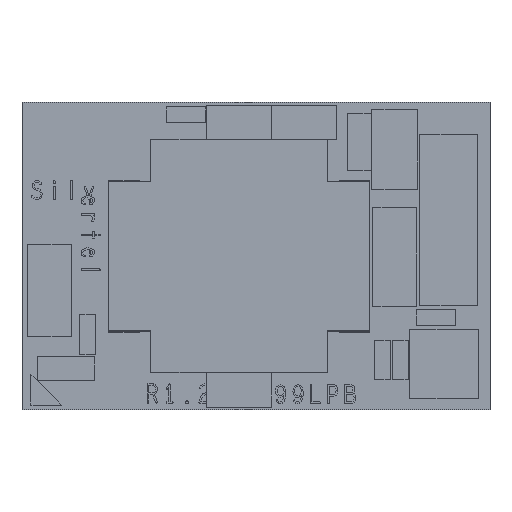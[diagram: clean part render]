
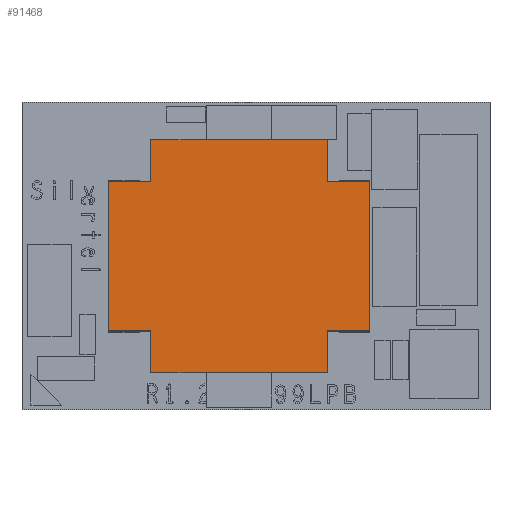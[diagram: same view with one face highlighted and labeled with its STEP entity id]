
A CAD part, top view. The second image highlights one B-rep face of the part: STEP entity #91468.
In plain terms, the highlighted face is a extrusion surface.
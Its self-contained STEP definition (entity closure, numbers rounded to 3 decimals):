
#91468 = ADVANCED_FACE('',(#91469),#91567,.T.);
#91469 = FACE_BOUND('',#91470,.T.);
#91470 = EDGE_LOOP('',(#91471,#91481,#91489,#91497,#91505,#91513,#91521,
    #91529,#91537,#91545,#91553,#91561));
#91471 = ORIENTED_EDGE('',*,*,#91472,.T.);
#91472 = EDGE_CURVE('',#91473,#91475,#91477,.T.);
#91473 = VERTEX_POINT('',#91474);
#91474 = CARTESIAN_POINT('',(3.531,2.388,5.588));
#91475 = VERTEX_POINT('',#91476);
#91476 = CARTESIAN_POINT('',(3.531,0.508,5.588));
#91477 = LINE('',#91478,#91479);
#91478 = CARTESIAN_POINT('',(3.531,2.388,5.588));
#91479 = VECTOR('',#91480,1.);
#91480 = DIRECTION('',(0.,-1.,0.));
#91481 = ORIENTED_EDGE('',*,*,#91482,.T.);
#91482 = EDGE_CURVE('',#91475,#91483,#91485,.T.);
#91483 = VERTEX_POINT('',#91484);
#91484 = CARTESIAN_POINT('',(11.532,0.508,5.588));
#91485 = LINE('',#91486,#91487);
#91486 = CARTESIAN_POINT('',(3.531,0.508,5.588));
#91487 = VECTOR('',#91488,1.);
#91488 = DIRECTION('',(1.,0.,0.));
#91489 = ORIENTED_EDGE('',*,*,#91490,.T.);
#91490 = EDGE_CURVE('',#91483,#91491,#91493,.T.);
#91491 = VERTEX_POINT('',#91492);
#91492 = CARTESIAN_POINT('',(11.532,2.388,5.588));
#91493 = LINE('',#91494,#91495);
#91494 = CARTESIAN_POINT('',(11.532,0.508,5.588));
#91495 = VECTOR('',#91496,1.);
#91496 = DIRECTION('',(0.,1.,0.));
#91497 = ORIENTED_EDGE('',*,*,#91498,.T.);
#91498 = EDGE_CURVE('',#91491,#91499,#91501,.T.);
#91499 = VERTEX_POINT('',#91500);
#91500 = CARTESIAN_POINT('',(13.437,2.388,5.588));
#91501 = LINE('',#91502,#91503);
#91502 = CARTESIAN_POINT('',(11.532,2.388,5.588));
#91503 = VECTOR('',#91504,1.);
#91504 = DIRECTION('',(1.,0.,0.));
#91505 = ORIENTED_EDGE('',*,*,#91506,.T.);
#91506 = EDGE_CURVE('',#91499,#91507,#91509,.T.);
#91507 = VERTEX_POINT('',#91508);
#91508 = CARTESIAN_POINT('',(13.437,9.169,5.588));
#91509 = LINE('',#91510,#91511);
#91510 = CARTESIAN_POINT('',(13.437,2.388,5.588));
#91511 = VECTOR('',#91512,1.);
#91512 = DIRECTION('',(0.,1.,0.));
#91513 = ORIENTED_EDGE('',*,*,#91514,.T.);
#91514 = EDGE_CURVE('',#91507,#91515,#91517,.T.);
#91515 = VERTEX_POINT('',#91516);
#91516 = CARTESIAN_POINT('',(11.532,9.169,5.588));
#91517 = LINE('',#91518,#91519);
#91518 = CARTESIAN_POINT('',(13.437,9.169,5.588));
#91519 = VECTOR('',#91520,1.);
#91520 = DIRECTION('',(-1.,0.,0.));
#91521 = ORIENTED_EDGE('',*,*,#91522,.T.);
#91522 = EDGE_CURVE('',#91515,#91523,#91525,.T.);
#91523 = VERTEX_POINT('',#91524);
#91524 = CARTESIAN_POINT('',(11.532,11.049,5.588));
#91525 = LINE('',#91526,#91527);
#91526 = CARTESIAN_POINT('',(11.532,9.169,5.588));
#91527 = VECTOR('',#91528,1.);
#91528 = DIRECTION('',(0.,1.,0.));
#91529 = ORIENTED_EDGE('',*,*,#91530,.T.);
#91530 = EDGE_CURVE('',#91523,#91531,#91533,.T.);
#91531 = VERTEX_POINT('',#91532);
#91532 = CARTESIAN_POINT('',(3.531,11.049,5.588));
#91533 = LINE('',#91534,#91535);
#91534 = CARTESIAN_POINT('',(11.532,11.049,5.588));
#91535 = VECTOR('',#91536,1.);
#91536 = DIRECTION('',(-1.,0.,0.));
#91537 = ORIENTED_EDGE('',*,*,#91538,.T.);
#91538 = EDGE_CURVE('',#91531,#91539,#91541,.T.);
#91539 = VERTEX_POINT('',#91540);
#91540 = CARTESIAN_POINT('',(3.531,9.169,5.588));
#91541 = LINE('',#91542,#91543);
#91542 = CARTESIAN_POINT('',(3.531,11.049,5.588));
#91543 = VECTOR('',#91544,1.);
#91544 = DIRECTION('',(0.,-1.,0.));
#91545 = ORIENTED_EDGE('',*,*,#91546,.T.);
#91546 = EDGE_CURVE('',#91539,#91547,#91549,.T.);
#91547 = VERTEX_POINT('',#91548);
#91548 = CARTESIAN_POINT('',(1.626,9.169,5.588));
#91549 = LINE('',#91550,#91551);
#91550 = CARTESIAN_POINT('',(3.531,9.169,5.588));
#91551 = VECTOR('',#91552,1.);
#91552 = DIRECTION('',(-1.,0.,0.));
#91553 = ORIENTED_EDGE('',*,*,#91554,.T.);
#91554 = EDGE_CURVE('',#91547,#91555,#91557,.T.);
#91555 = VERTEX_POINT('',#91556);
#91556 = CARTESIAN_POINT('',(1.626,2.388,5.588));
#91557 = LINE('',#91558,#91559);
#91558 = CARTESIAN_POINT('',(1.626,9.169,5.588));
#91559 = VECTOR('',#91560,1.);
#91560 = DIRECTION('',(0.,-1.,0.));
#91561 = ORIENTED_EDGE('',*,*,#91562,.T.);
#91562 = EDGE_CURVE('',#91555,#91473,#91563,.T.);
#91563 = LINE('',#91564,#91565);
#91564 = CARTESIAN_POINT('',(1.626,2.388,5.588));
#91565 = VECTOR('',#91566,1.);
#91566 = DIRECTION('',(1.,0.,0.));
#91567 = SURFACE_OF_LINEAR_EXTRUSION('',#91568,#91572);
#91568 = LINE('',#91569,#91570);
#91569 = CARTESIAN_POINT('',(1.626,0.508,5.588));
#91570 = VECTOR('',#91571,1.);
#91571 = DIRECTION('',(1.,0.,0.));
#91572 = VECTOR('',#91573,1.);
#91573 = DIRECTION('',(0.,1.,0.));
